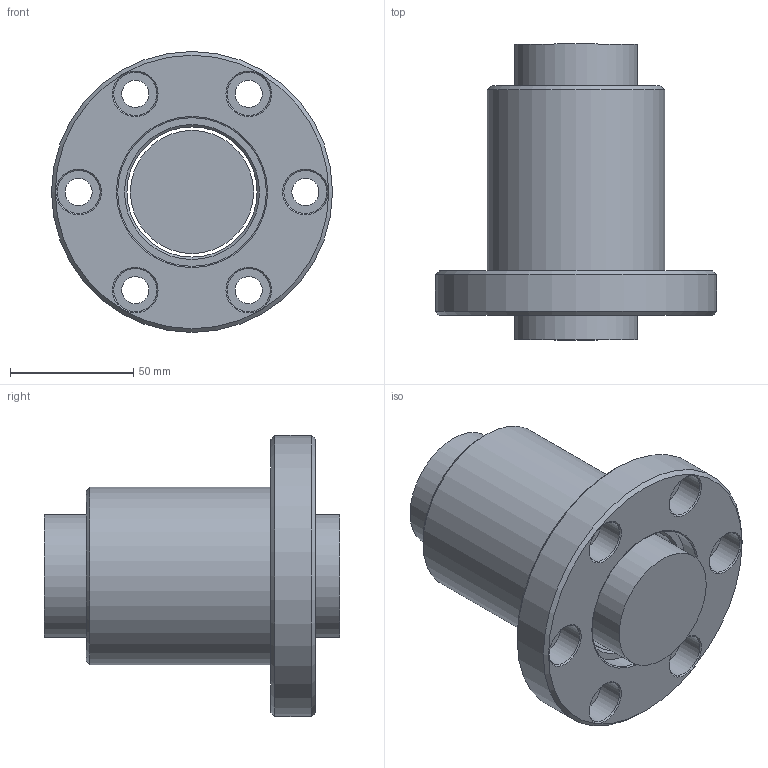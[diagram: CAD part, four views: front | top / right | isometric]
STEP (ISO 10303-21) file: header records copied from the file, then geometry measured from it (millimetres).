
FILE_DESCRIPTION(/* description */ (''),/* implementation_level */ '2;1');
FILE_NAME(/* name */ '5010T4N.prt.step',/* time_stamp */ '2008-12-05T09:37:19+08:00',/* author */ (''),/* organization */ (''),/* preprocessor_version */ 'ST-DEVELOPER v11',/* originating_system */ 'SIEMENS UGS NX 6.0',/* authorisation */ '');
FILE_SCHEMA (('AUTOMOTIVE_DESIGN { 1 0 10303 214 1 1 1 1 }'));
Length unit declared in the file: millimetre
Products named in the file (1): 5010T4N
Bounding box: 114 x 120 x 114 mm (x, y, z)
Volume: 489708.6 mm3; surface area: 80642.8 mm2
Topology: 2 solids, 2 shells, 50 faces, 104 edges, 67 vertices
Faces by surface type: cylinder 18, cone 17, plane 13, torus 2
Full cylindrical faces by diameter (mm): 11 x6, 17.5 x6, 49.95 x1, 52.8 x1, 60.3 x2, 72 x1, 114 x1
Entity records: 1112 total; most frequent: DIRECTION 212, CARTESIAN_POINT 161, EDGE_LOOP 110, ORIENTED_EDGE 110, FACE_BOUND 108, AXIS2_PLACEMENT_3D 106, VERTEX_POINT 55, EDGE_CURVE 55
